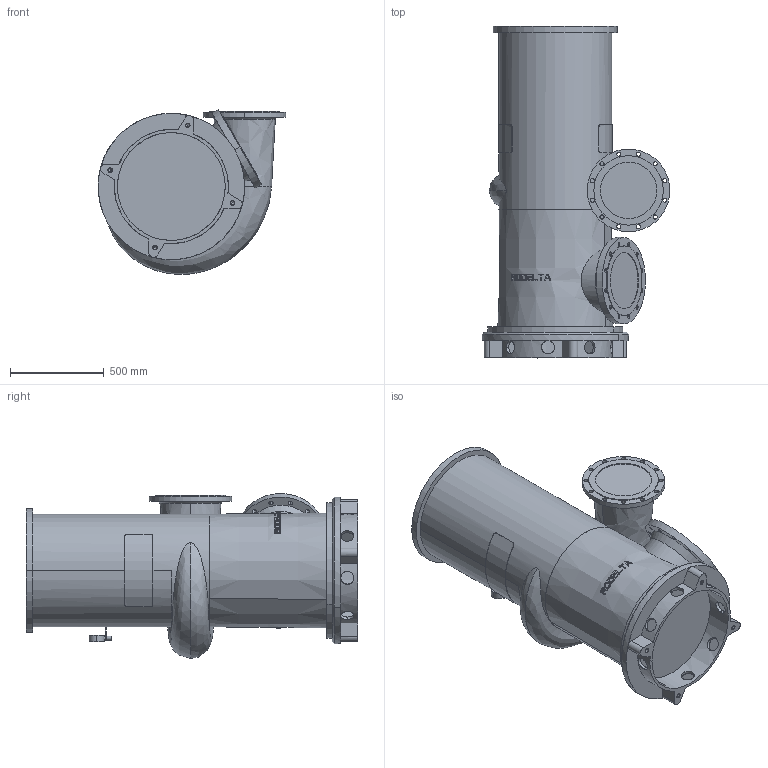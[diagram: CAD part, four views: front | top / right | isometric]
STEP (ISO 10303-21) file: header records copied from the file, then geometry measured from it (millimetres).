
FILE_DESCRIPTION((''),'2;1');
FILE_NAME('12-520_ASM','2024-08-06T',('Lyritlocal'),(''),'PRO/ENGINEER BY PARAMETRIC TECHNOLOGY CORPORATION, 2016360','PRO/ENGINEER BY PARAMETRIC TECHNOLOGY CORPORATION, 2016360','');
FILE_SCHEMA(('CONFIG_CONTROL_DESIGN'));
Length unit declared in the file: millimetre
Products named in the file (3): 12-520; 12-520_VOET; 12-520_ASM
Assembly tree (2 placements, depth 2):
  12-520_ASM
    12-520
    12-520_VOET
Bounding box: 1000 x 1766.5 x 877.95 mm (x, y, z)
Volume: 566586530 mm3; surface area: 6652634.1 mm2
Topology: 2 solids, 6 shells, 503 faces, 1366 edges, 900 vertices
Faces by surface type: plane 323, cylinder 138, cone 36, bspline 6
Entity records: 17785 total; most frequent: CARTESIAN_POINT 5428, ORIENTED_EDGE 2700, DIRECTION 2313, EDGE_CURVE 1358, VERTEX_POINT 900, AXIS2_PLACEMENT_3D 896, EDGE_LOOP 608, VECTOR 521
